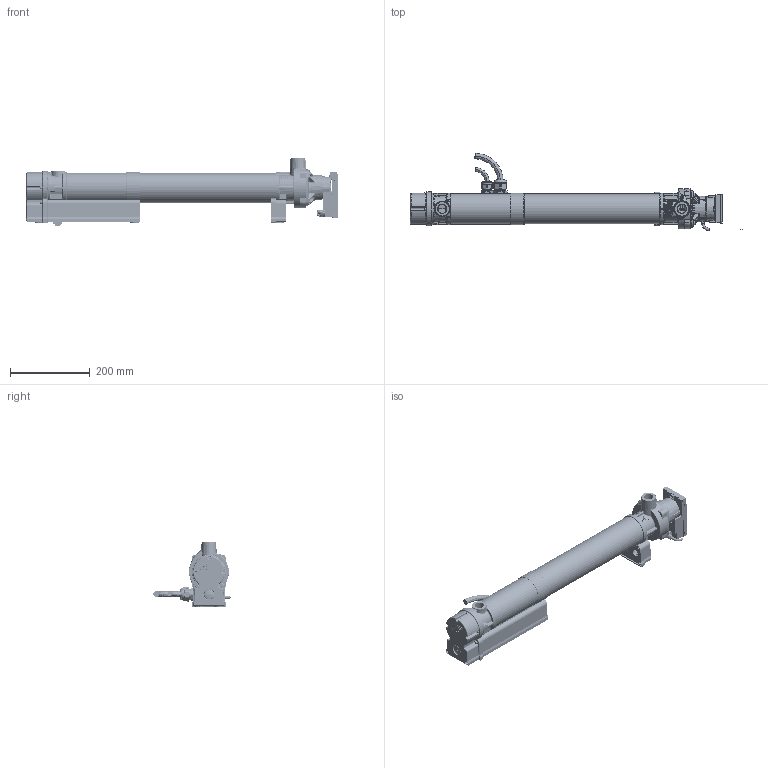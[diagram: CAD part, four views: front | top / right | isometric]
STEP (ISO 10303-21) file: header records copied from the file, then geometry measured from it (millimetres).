
FILE_DESCRIPTION (( 'STEP AP214' ), '1' );
FILE_NAME ('ASS_TOPSTART_9KW_WILOYP_T.STEP', '2014-01-10T09:26:55', ( '' ), ( '' ), 'SwSTEP 2.0', 'SolidWorks 2013', '' );
FILE_SCHEMA (( 'AUTOMOTIVE_DESIGN' ));
Length unit declared in the file: millimetre
Products named in the file (24): 1597025-B; 1597020-C; PETCAP; 1597025-A; ASS_TOPSTART_9KW_WILOYP_T; 1597020-B; Pièce_Iso_3; BOUCHON; 1597020-A; Pièce_Iso_1; Copie de Pièce6^ASS_TOPSTART_9KW_WILOYP_T; BOUCHON_2; 462615; Bague_Sup; Copie de Pièce5^ASS_TOPSTART_9KW_WILOYP_T; REFROIDISSEUR PERCE; 1597025-R; GRCAPCAR; 462614; Vis-Al-6; 1597025-C; CORPS DE CHAUFFE TOPSTART_9KW _LG; 1597020-R; 3d-stp_WILO-Intec_Motor-MS13-F14-Yonos-Para-RK-WS8
Assembly tree (33 placements, depth 3):
  ASS_TOPSTART_9KW_WILOYP_T
    CORPS DE CHAUFFE TOPSTART_9KW _LG
    GRCAPCAR
    Bague_Sup
    Pièce_Iso_1
    Pièce_Iso_3
    PETCAP
    3d-stp_WILO-Intec_Motor-MS13-F14-Yonos-Para-RK-WS8
    Vis-Al-6  x9
    REFROIDISSEUR PERCE
    BOUCHON_2  x3
    BOUCHON
    462615
      1597025-A
      1597025-B
      1597025-C
      1597025-R
    462614
      1597020-A
      1597020-B
      1597020-C
      1597020-R
    Copie de Pièce5^ASS_TOPSTART_9KW_WILOYP_T
    Copie de Pièce6^ASS_TOPSTART_9KW_WILOYP_T
Bounding box: 831.64 x 193.62 x 170.62 mm (x, y, z)
Volume: 1521501.4 mm3; surface area: 893655.7 mm2
Topology: 30 solids, 49 shells, 4815 faces, 12293 edges, 7614 vertices
Faces by surface type: bspline 1535, plane 1440, cylinder 1377, cone 292, torus 117, sphere 54
Entity records: 294570 total; most frequent: CARTESIAN_POINT 178092, ORIENTED_EDGE 22908, DIRECTION 14790, EDGE_CURVE 11486, VERTEX_POINT 7176, AXIS2_PLACEMENT_3D 5481, EDGE_LOOP 4802, B_SPLINE_CURVE_WITH_KNOTS 4751
